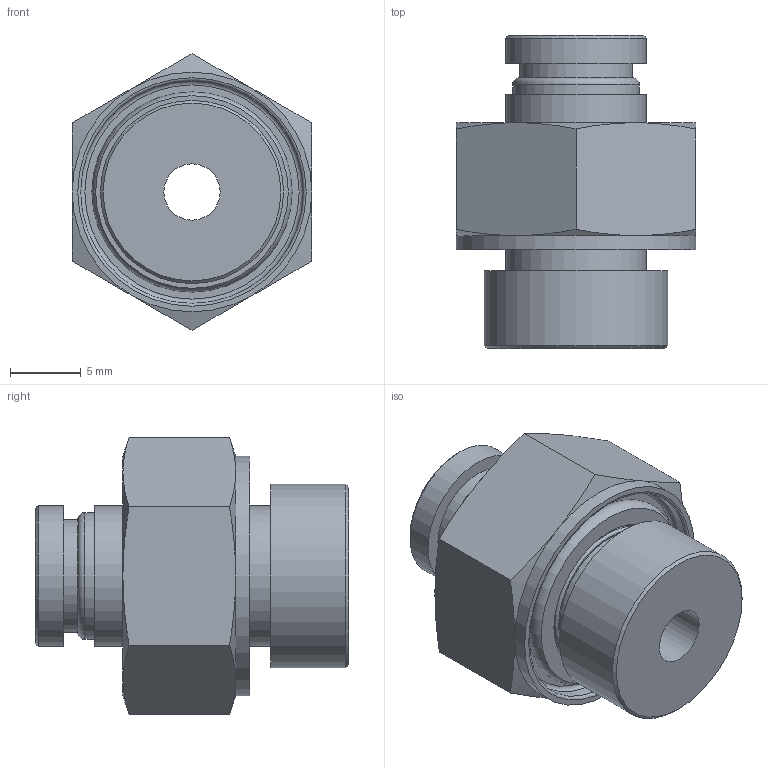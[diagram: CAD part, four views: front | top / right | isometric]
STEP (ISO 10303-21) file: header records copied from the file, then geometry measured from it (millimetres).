
FILE_DESCRIPTION(/* description */ (''),/* implementation_level */ '2;1');
FILE_NAME(/* name */ 'LXH18 0006 B2.stp',/* time_stamp */ '2026-04-20T19:16:17+02:00',/* author */ ('freju'),/* organization */ (''),/* preprocessor_version */ 'ST-DEVELOPER v20.1',/* originating_system */ 'Autodesk Inventor 2026',/* authorisation */ '');
FILE_SCHEMA (('AUTOMOTIVE_DESIGN { 1 0 10303 214 3 1 1 }'));
Length unit declared in the file: millimetre
Products named in the file (4): LXH18 0006 B2; LXH18 0006 B2_1; O-Ring; ISO 3601-1 - A 0106 G
Assembly tree (3 placements, depth 3):
  LXH18 0006 B2
    LXH18 0006 B2_1
    O-Ring
      ISO 3601-1 - A 0106 G
Bounding box: 17 x 22.2 x 19.63 mm (x, y, z)
Volume: 3017.1 mm3; surface area: 2231.1 mm2
Topology: 2 solids, 2 shells, 50 faces, 101 edges, 63 vertices
Faces by surface type: plane 18, cone 14, cylinder 11, torus 7
Full cylindrical faces by diameter (mm): 4 x1, 6 x1, 8 x1, 9 x1, 10 x3, 10.6 x1, 13 x1, 15.8 x1, 17 x1
Entity records: 1445 total; most frequent: CARTESIAN_POINT 269, DIRECTION 249, ORIENTED_EDGE 202, AXIS2_PLACEMENT_3D 115, EDGE_CURVE 101, VERTEX_POINT 63, EDGE_LOOP 62, CIRCLE 58
